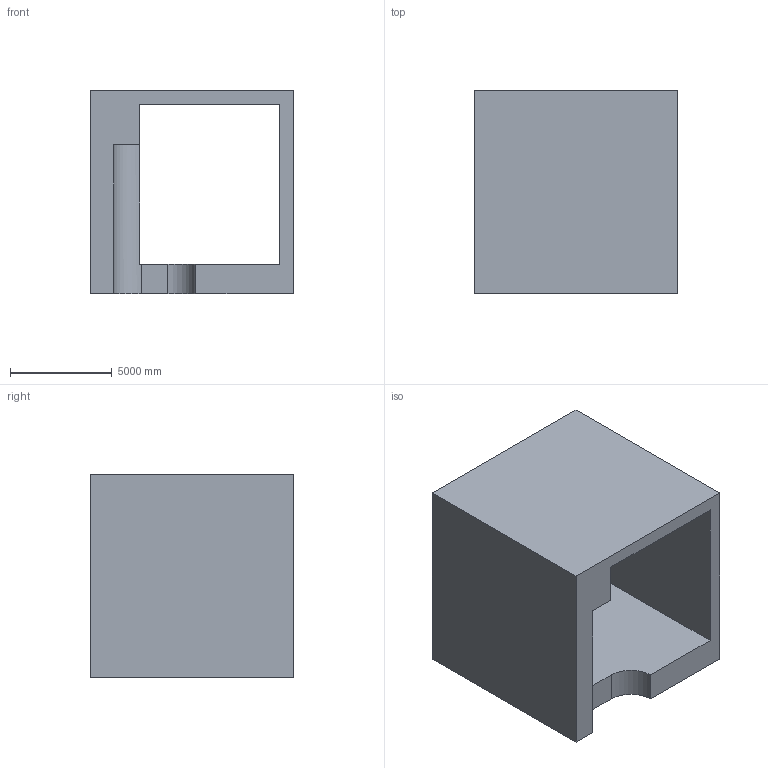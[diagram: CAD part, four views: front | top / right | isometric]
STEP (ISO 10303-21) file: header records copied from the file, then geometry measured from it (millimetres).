
FILE_DESCRIPTION (( 'STEP AP203' ), '1' );
FILE_NAME ('60.STEP', '2022-07-28T13:31:05', ( 'user' ), ( '' ), 'SwSTEP 2.0', 'SolidWorks 2021', '' );
FILE_SCHEMA (( 'CONFIG_CONTROL_DESIGN' ));
Length unit declared in the file: centimetre
Products named in the file (1): 60
Bounding box: 10000 x 10000 x 10000 mm (x, y, z)
Volume: 442505803410.2 mm3; surface area: 778905823.7 mm2
Topology: 1 solids, 1 shells, 14 faces, 39 edges, 26 vertices
Faces by surface type: plane 12, cylinder 2
Entity records: 529 total; most frequent: CARTESIAN_POINT 80, ORIENTED_EDGE 78, DIRECTION 74, EDGE_CURVE 39, LINE 34, VECTOR 34, VERTEX_POINT 26, AXIS2_PLACEMENT_3D 20
